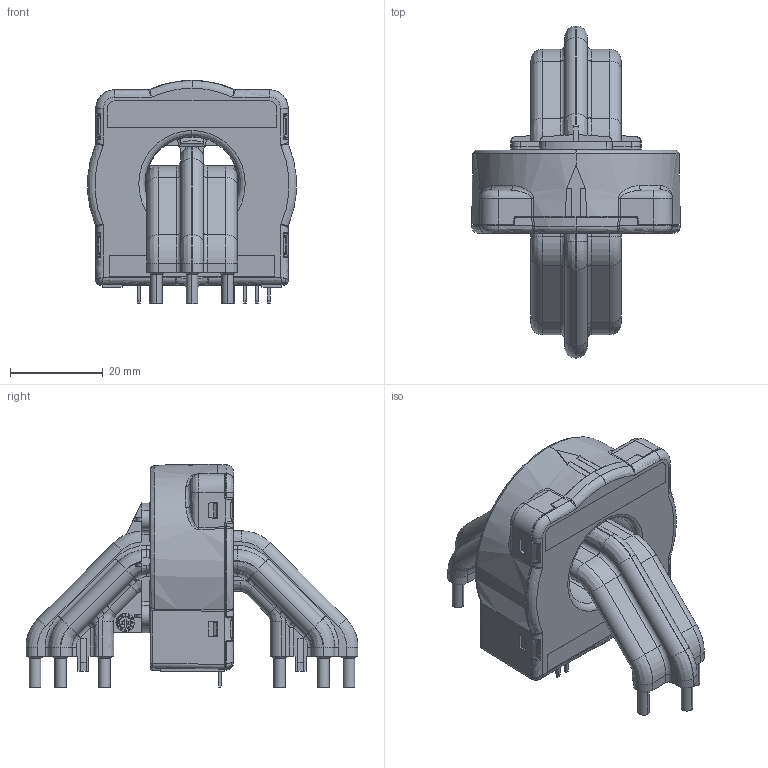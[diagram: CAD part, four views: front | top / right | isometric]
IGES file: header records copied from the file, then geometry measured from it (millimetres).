
Start section: Elysium IGES Interface
Global section: file name: 98HC:\Documents and Settings\tah\デスクトップ\CTSR 0.3-TP_SP14 blackbox\CTSR 0.3-TP_SP14 blackbox.igs; native system: CoCreate Modeling 17.00A  17-Jun-2010; preprocessor: CoCreate IGES_3D V2.2; author: Unknown; organization: Unknown; date: 20130517.193341; units: millimetre
Bounding box: 44.87 x 71.41 x 48.06 mm (x, y, z)
Volume: 35453.2 mm3; surface area: 13201.7 mm2
Topology: 1 solids, 1 shells, 1540 faces, 4215 edges, 2723 vertices
Faces by surface type: bspline 1540
